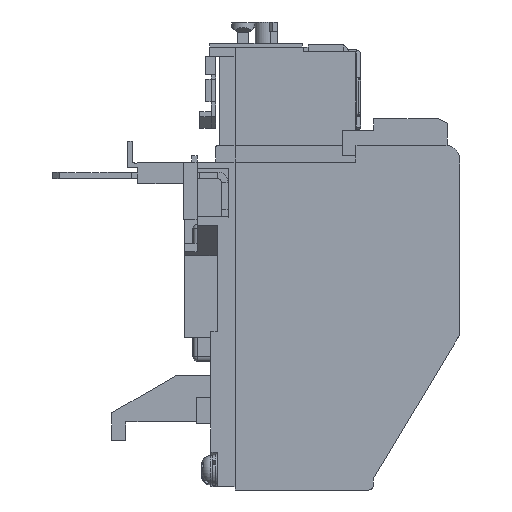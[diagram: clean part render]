
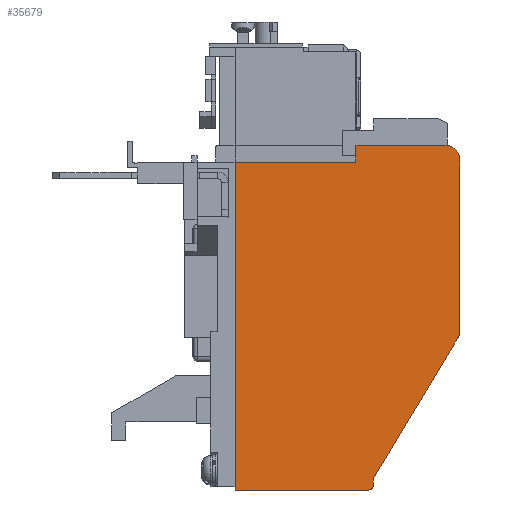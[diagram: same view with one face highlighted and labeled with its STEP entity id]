
A CAD part, left-side view. The second image highlights one B-rep face of the part: STEP entity #35679.
In plain terms, the highlighted planar face has unit normal (-1, 0, 0).
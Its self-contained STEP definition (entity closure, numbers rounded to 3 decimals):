
#617 = VERTEX_POINT ( 'NONE', #17799 ) ;
#1369 = VERTEX_POINT ( 'NONE', #36692 ) ;
#1679 = EDGE_CURVE ( 'NONE', #13352, #45991, #18878, .T. ) ;
#2754 = ORIENTED_EDGE ( 'NONE', *, *, #38195, .F. ) ;
#3236 = EDGE_CURVE ( 'NONE', #617, #30317, #22283, .T. ) ;
#3313 = VECTOR ( 'NONE', #15974, 1000. ) ;
#3572 = LINE ( 'NONE', #15832, #30956 ) ;
#3730 = CARTESIAN_POINT ( 'NONE',  ( -34., -30.3, 0.307 ) ) ;
#4094 = AXIS2_PLACEMENT_3D ( 'NONE', #36041, #14638, #39634 ) ;
#4196 = CARTESIAN_POINT ( 'NONE',  ( -34., -49.2, 70.307 ) ) ;
#4915 = EDGE_CURVE ( 'NONE', #24410, #617, #24356, .T. ) ;
#5754 = LINE ( 'NONE', #26427, #6901 ) ;
#6901 = VECTOR ( 'NONE', #37076, 1000. ) ;
#9945 = DIRECTION ( 'NONE',  ( 0., 0.515, -0.857 ) ) ;
#10613 = ORIENTED_EDGE ( 'NONE', *, *, #27540, .F. ) ;
#10817 = VECTOR ( 'NONE', #22417, 1000. ) ;
#10920 = EDGE_CURVE ( 'NONE', #34804, #18398, #16360, .T. ) ;
#11363 = EDGE_CURVE ( 'NONE', #45991, #34804, #24700, .T. ) ;
#11812 = DIRECTION ( 'NONE',  ( 0., 1., 0. ) ) ;
#11969 = ORIENTED_EDGE ( 'NONE', *, *, #26407, .F. ) ;
#13352 = VERTEX_POINT ( 'NONE', #21347 ) ;
#13604 = DIRECTION ( 'NONE',  ( 0., 0., -1. ) ) ;
#13763 = DIRECTION ( 'NONE',  ( 1., 0., 0. ) ) ;
#13897 = VECTOR ( 'NONE', #11812, 1000. ) ;
#13909 = CARTESIAN_POINT ( 'NONE',  ( -34., -46.2, 70.307 ) ) ;
#13911 = PLANE ( 'NONE',  #42675 ) ;
#14407 = ORIENTED_EDGE ( 'NONE', *, *, #36464, .F. ) ;
#14638 = DIRECTION ( 'NONE',  ( 1., 0., 0. ) ) ;
#14891 = VECTOR ( 'NONE', #36903, 1000. ) ;
#15263 = CARTESIAN_POINT ( 'NONE',  ( -34., -30.3, 0.307 ) ) ;
#15832 = CARTESIAN_POINT ( 'NONE',  ( -34., 0., 73.307 ) ) ;
#15974 = DIRECTION ( 'NONE',  ( 0., 1., 0. ) ) ;
#15986 = DIRECTION ( 'NONE',  ( 0., -1., 0. ) ) ;
#16020 = CARTESIAN_POINT ( 'NONE',  ( -34., -49.2, 70.307 ) ) ;
#16160 = CARTESIAN_POINT ( 'NONE',  ( -34., -26.5, 69.607 ) ) ;
#16360 = LINE ( 'NONE', #31356, #42628 ) ;
#17799 = CARTESIAN_POINT ( 'NONE',  ( -34., -26.5, 69.607 ) ) ;
#18398 = VERTEX_POINT ( 'NONE', #3730 ) ;
#18878 = CIRCLE ( 'NONE', #29132, 3. ) ;
#19302 = ORIENTED_EDGE ( 'NONE', *, *, #28145, .F. ) ;
#19672 = CARTESIAN_POINT ( 'NONE',  ( -34., 0., -2.193 ) ) ;
#19770 = ORIENTED_EDGE ( 'NONE', *, *, #1679, .F. ) ;
#20659 = CARTESIAN_POINT ( 'NONE',  ( -34., 0., 69.607 ) ) ;
#21081 = DIRECTION ( 'NONE',  ( 0., 0., -1. ) ) ;
#21347 = CARTESIAN_POINT ( 'NONE',  ( -34., -46.2, 73.307 ) ) ;
#22283 = LINE ( 'NONE', #16160, #3313 ) ;
#22417 = DIRECTION ( 'NONE',  ( 0., 0., -1. ) ) ;
#22438 = CARTESIAN_POINT ( 'NONE',  ( -34., 0., -2.193 ) ) ;
#24356 = LINE ( 'NONE', #44999, #14891 ) ;
#24410 = VERTEX_POINT ( 'NONE', #46188 ) ;
#24700 = LINE ( 'NONE', #16020, #33092 ) ;
#26407 = EDGE_CURVE ( 'NONE', #30749, #30317, #5754, .T. ) ;
#26427 = CARTESIAN_POINT ( 'NONE',  ( -34., 0., 73.307 ) ) ;
#26757 = DIRECTION ( 'NONE',  ( 0., 0., -1. ) ) ;
#27540 = EDGE_CURVE ( 'NONE', #18398, #45369, #29835, .T. ) ;
#28030 = FACE_OUTER_BOUND ( 'NONE', #41965, .T. ) ;
#28145 = EDGE_CURVE ( 'NONE', #24410, #13352, #3572, .T. ) ;
#28909 = ORIENTED_EDGE ( 'NONE', *, *, #11363, .F. ) ;
#29132 = AXIS2_PLACEMENT_3D ( 'NONE', #13909, #13763, #13604 ) ;
#29835 = LINE ( 'NONE', #15263, #10817 ) ;
#30317 = VERTEX_POINT ( 'NONE', #20659 ) ;
#30749 = VERTEX_POINT ( 'NONE', #19672 ) ;
#30956 = VECTOR ( 'NONE', #15986, 1000. ) ;
#31356 = CARTESIAN_POINT ( 'NONE',  ( -34., -30.3, 0.307 ) ) ;
#33092 = VECTOR ( 'NONE', #26757, 1000. ) ;
#33694 = CARTESIAN_POINT ( 'NONE',  ( -34., -49.2, 31.762 ) ) ;
#34804 = VERTEX_POINT ( 'NONE', #33694 ) ;
#35679 = ADVANCED_FACE ( 'NONE', ( #28030 ), #13911, .F. ) ;
#35811 = CIRCLE ( 'NONE', #4094, 1. ) ;
#36041 = CARTESIAN_POINT ( 'NONE',  ( -34., -29.3, -1.193 ) ) ;
#36464 = EDGE_CURVE ( 'NONE', #45369, #1369, #35811, .T. ) ;
#36692 = CARTESIAN_POINT ( 'NONE',  ( -34., -29.3, -2.193 ) ) ;
#36903 = DIRECTION ( 'NONE',  ( 0., 0., -1. ) ) ;
#37076 = DIRECTION ( 'NONE',  ( 0., 0., 1. ) ) ;
#38195 = EDGE_CURVE ( 'NONE', #1369, #30749, #42391, .T. ) ;
#38933 = CARTESIAN_POINT ( 'NONE',  ( -34., -46.2, 70.307 ) ) ;
#39035 = ORIENTED_EDGE ( 'NONE', *, *, #4915, .T. ) ;
#39634 = DIRECTION ( 'NONE',  ( 0., 0., -1. ) ) ;
#40817 = CARTESIAN_POINT ( 'NONE',  ( -34., -30.3, -1.193 ) ) ;
#41965 = EDGE_LOOP ( 'NONE', ( #39035, #44964, #11969, #2754, #14407, #10613, #43666, #28909, #19770, #19302 ) ) ;
#42391 = LINE ( 'NONE', #22438, #13897 ) ;
#42499 = DIRECTION ( 'NONE',  ( 1., 0., 0. ) ) ;
#42628 = VECTOR ( 'NONE', #9945, 1000. ) ;
#42675 = AXIS2_PLACEMENT_3D ( 'NONE', #38933, #42499, #21081 ) ;
#43666 = ORIENTED_EDGE ( 'NONE', *, *, #10920, .F. ) ;
#44964 = ORIENTED_EDGE ( 'NONE', *, *, #3236, .T. ) ;
#44999 = CARTESIAN_POINT ( 'NONE',  ( -34., -26.5, 73.307 ) ) ;
#45369 = VERTEX_POINT ( 'NONE', #40817 ) ;
#45991 = VERTEX_POINT ( 'NONE', #4196 ) ;
#46188 = CARTESIAN_POINT ( 'NONE',  ( -34., -26.5, 73.307 ) ) ;
